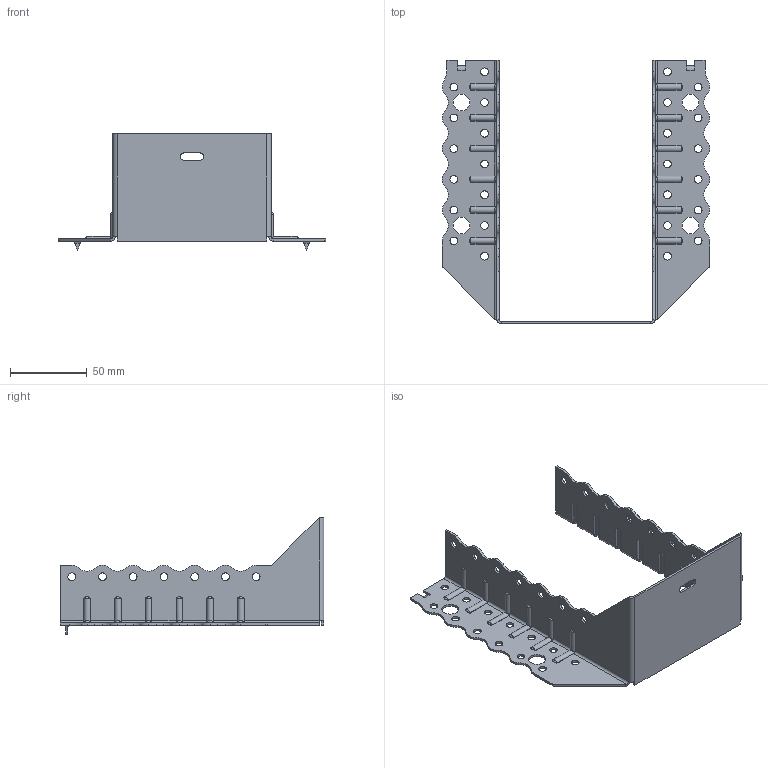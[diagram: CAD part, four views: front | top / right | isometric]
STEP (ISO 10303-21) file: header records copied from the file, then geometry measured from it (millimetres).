
FILE_DESCRIPTION (( 'STEP AP203' ), '1' );
FILE_NAME ('30628TOP.STEP', '2021-04-07T13:53:14', ( '' ), ( '' ), 'SwSTEP 2.0', 'SolidWorks 2013', '' );
FILE_SCHEMA (( 'CONFIG_CONTROL_DESIGN' ));
Length unit declared in the file: millimetre
Products named in the file (1): 30628TOP
Bounding box: 174 x 171.5 x 76 mm (x, y, z)
Volume: 44688.9 mm3; surface area: 63510.1 mm2
Topology: 1 solids, 1 shells, 498 faces, 1348 edges, 852 vertices
Faces by surface type: cylinder 317, plane 133, torus 24, bspline 24
Entity records: 18595 total; most frequent: CARTESIAN_POINT 5929, ORIENTED_EDGE 2696, DIRECTION 2596, EDGE_CURVE 1348, AXIS2_PLACEMENT_3D 949, VERTEX_POINT 852, VECTOR 698, LINE 698
